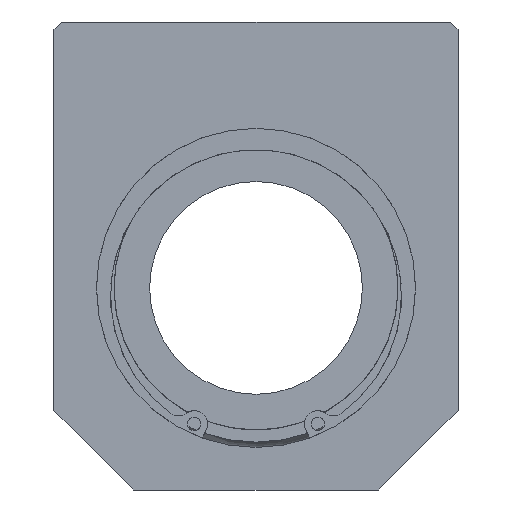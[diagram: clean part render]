
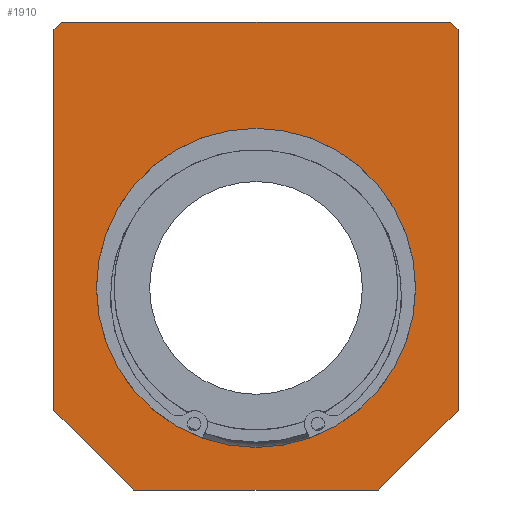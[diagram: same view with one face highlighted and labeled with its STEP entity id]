
A CAD part, left-side view. The second image highlights one B-rep face of the part: STEP entity #1910.
In plain terms, the highlighted planar face has unit normal (-1, 0, 0).
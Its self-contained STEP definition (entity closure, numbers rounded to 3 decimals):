
#1812=CARTESIAN_POINT('',(0.0,-36.5,50.));
#1813=VERTEX_POINT('',#1812);
#1820=CARTESIAN_POINT('',(0.0,-38.,48.5));
#1821=VERTEX_POINT('',#1820);
#1822=CARTESIAN_POINT('',(0.0,-36.5,50.));
#1823=DIRECTION('',(0.0,-0.707,-0.707));
#1824=VECTOR('',#1823,2.121);
#1825=LINE('',#1822,#1824);
#1826=EDGE_CURVE('',#1813,#1821,#1825,.T.);
#1837=CARTESIAN_POINT('',(0.0,0.,6.));
#1838=DIRECTION('',(1.0,0.0,0.0));
#1839=DIRECTION('',(0.0,0.0,-1.0));
#1840=AXIS2_PLACEMENT_3D('',#1837,#1838,#1839);
#1841=PLANE('',#1840);
#1842=ORIENTED_EDGE('',*,*,#1826,.F.);
#1843=CARTESIAN_POINT('',(0.0,36.5,50.));
#1844=VERTEX_POINT('',#1843);
#1845=CARTESIAN_POINT('',(0.0,-36.5,50.));
#1846=DIRECTION('',(0.0,1.0,0.0));
#1847=VECTOR('',#1846,73.0);
#1848=LINE('',#1845,#1847);
#1849=EDGE_CURVE('',#1813,#1844,#1848,.T.);
#1850=ORIENTED_EDGE('',*,*,#1849,.T.);
#1851=CARTESIAN_POINT('',(0.0,38.,48.5));
#1852=VERTEX_POINT('',#1851);
#1853=CARTESIAN_POINT('',(0.0,38.,48.5));
#1854=DIRECTION('',(0.0,-0.707,0.707));
#1855=VECTOR('',#1854,2.121);
#1856=LINE('',#1853,#1855);
#1857=EDGE_CURVE('',#1852,#1844,#1856,.T.);
#1858=ORIENTED_EDGE('',*,*,#1857,.F.);
#1859=CARTESIAN_POINT('',(0.0,38.,-23.));
#1860=VERTEX_POINT('',#1859);
#1861=CARTESIAN_POINT('',(0.0,38.,48.5));
#1862=DIRECTION('',(0.0,0.0,-1.0));
#1863=VECTOR('',#1862,71.5);
#1864=LINE('',#1861,#1863);
#1865=EDGE_CURVE('',#1852,#1860,#1864,.T.);
#1866=ORIENTED_EDGE('',*,*,#1865,.T.);
#1867=CARTESIAN_POINT('',(0.0,23.,-38.));
#1868=VERTEX_POINT('',#1867);
#1869=CARTESIAN_POINT('',(0.0,23.,-38.));
#1870=DIRECTION('',(0.0,0.707,0.707));
#1871=VECTOR('',#1870,21.213);
#1872=LINE('',#1869,#1871);
#1873=EDGE_CURVE('',#1868,#1860,#1872,.T.);
#1874=ORIENTED_EDGE('',*,*,#1873,.F.);
#1875=CARTESIAN_POINT('',(0.0,-23.,-38.));
#1876=VERTEX_POINT('',#1875);
#1877=CARTESIAN_POINT('',(0.0,23.,-38.));
#1878=DIRECTION('',(0.0,-1.0,0.0));
#1879=VECTOR('',#1878,46.);
#1880=LINE('',#1877,#1879);
#1881=EDGE_CURVE('',#1868,#1876,#1880,.T.);
#1882=ORIENTED_EDGE('',*,*,#1881,.T.);
#1883=CARTESIAN_POINT('',(0.0,-38.,-23.));
#1884=VERTEX_POINT('',#1883);
#1885=CARTESIAN_POINT('',(0.0,-38.,-23.));
#1886=DIRECTION('',(0.0,0.707,-0.707));
#1887=VECTOR('',#1886,21.213);
#1888=LINE('',#1885,#1887);
#1889=EDGE_CURVE('',#1884,#1876,#1888,.T.);
#1890=ORIENTED_EDGE('',*,*,#1889,.F.);
#1891=CARTESIAN_POINT('',(0.0,-38.,-23.));
#1892=DIRECTION('',(0.0,0.0,1.0));
#1893=VECTOR('',#1892,71.5);
#1894=LINE('',#1891,#1893);
#1895=EDGE_CURVE('',#1884,#1821,#1894,.T.);
#1896=ORIENTED_EDGE('',*,*,#1895,.T.);
#1897=EDGE_LOOP('',(#1842,#1850,#1858,#1866,#1874,#1882,#1890,#1896));
#1898=FACE_OUTER_BOUND('',#1897,.T.);
#1899=CARTESIAN_POINT('',(0.0,30.0,0.));
#1900=VERTEX_POINT('',#1899);
#1901=CARTESIAN_POINT('',(0.0,0.0,0.0));
#1902=DIRECTION('',(1.0,0.0,0.0));
#1903=DIRECTION('',(0.0,-1.0,0.0));
#1904=AXIS2_PLACEMENT_3D('',#1901,#1902,#1903);
#1905=CIRCLE('',#1904,30.0);
#1906=EDGE_CURVE('',#1900,#1900,#1905,.T.);
#1907=ORIENTED_EDGE('',*,*,#1906,.T.);
#1908=EDGE_LOOP('',(#1907));
#1909=FACE_BOUND('',#1908,.T.);
#1910=ADVANCED_FACE('',(#1898,#1909),#1841,.F.);
